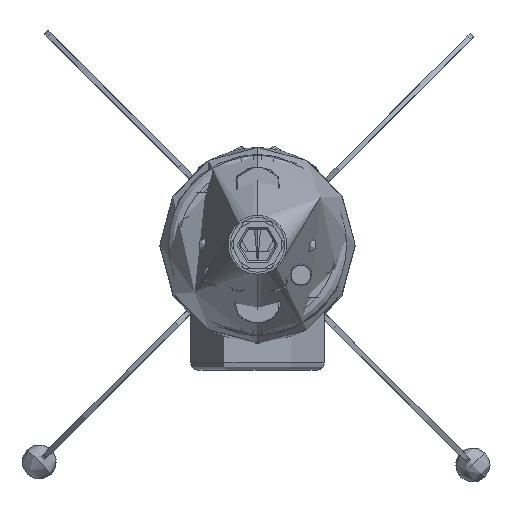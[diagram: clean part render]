
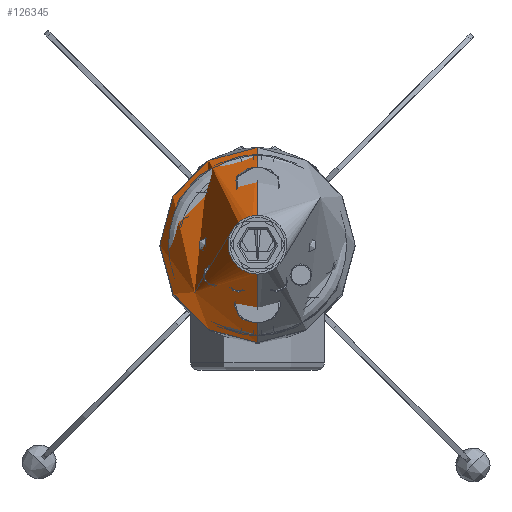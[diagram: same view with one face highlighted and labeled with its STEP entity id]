
A CAD part, top view. The second image highlights one B-rep face of the part: STEP entity #126345.
In plain terms, the highlighted free-form (B-spline) face has degree [2, 3] with [3, 4] control points.
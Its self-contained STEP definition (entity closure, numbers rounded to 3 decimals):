
#1784 = EDGE_CURVE ( 'NONE', #110170, #47028, #147333, .T. ) ;
#1825 = CARTESIAN_POINT ( 'NONE',  ( 0., 83.185, 130. ) ) ;
#4234 = CARTESIAN_POINT ( 'NONE',  ( 0., -25., 270. ) ) ;
#8751 = CARTESIAN_POINT ( 'NONE',  ( 0., -83.185, 130. ) ) ;
#12847 = CARTESIAN_POINT ( 'NONE',  ( 0., 0., 130. ) ) ;
#18354 = ORIENTED_EDGE ( 'NONE', *, *, #65877, .F. ) ;
#20958 = CARTESIAN_POINT ( 'NONE',  ( 0., -83.185, 221.177 ) ) ;
#23169 = ORIENTED_EDGE ( 'NONE', *, *, #98029, .T. ) ;
#25024 = DIRECTION ( 'NONE',  ( -1., 0., 0. ) ) ;
#33104 = CARTESIAN_POINT ( 'NONE',  ( -166.37, 83.185, 221.177 ) ) ;
#33429 = DIRECTION ( 'NONE',  ( 0., 0., -1. ) ) ;
#33565 = DIRECTION ( 'NONE',  ( 0., 0., -1. ) ) ;
#35831 = EDGE_LOOP ( 'NONE', ( #18354, #77031, #23169, #128451, #137060 ) ) ;
#39778 = EDGE_CURVE ( 'NONE', #111716, #86021, #94275, .T. ) ;
#44076 = CIRCLE ( 'NONE', #65768, 25. ) ;
#45367 = CARTESIAN_POINT ( 'NONE',  ( 0., -25., 270. ) ) ;
#47028 = VERTEX_POINT ( 'NONE', #74645 ) ;
#57514 = CARTESIAN_POINT ( 'NONE',  ( -50., 25., 270. ) ) ;
#57627 = AXIS2_PLACEMENT_3D ( 'NONE', #106309, #33429, #118537 ) ;
#62912 =( BOUNDED_CURVE ( )  B_SPLINE_CURVE ( 2, ( #1825, #134707, #99037 ),
 .UNSPECIFIED., .F., .F. ) 
 B_SPLINE_CURVE_WITH_KNOTS ( ( 3, 3 ),
 ( 0., 1. ),
 .UNSPECIFIED. ) 
 CURVE ( )  GEOMETRIC_REPRESENTATION_ITEM ( )  RATIONAL_B_SPLINE_CURVE ( ( 1., 0.798, 1. ) ) 
 REPRESENTATION_ITEM ( '' )  );
#65768 = AXIS2_PLACEMENT_3D ( 'NONE', #106447, #33565, #118672 ) ;
#65877 = EDGE_CURVE ( 'NONE', #111716, #110170, #126606, .T. ) ;
#67804 =( BOUNDED_SURFACE ( )  B_SPLINE_SURFACE ( 2, 3, ( 
 ( #8751, #154372, #105467, #93748 ),
 ( #20958, #105997, #33104, #118236 ),
 ( #45367, #130445, #57514, #142678 ) ),
 .UNSPECIFIED., .F., .F., .F. ) 
 B_SPLINE_SURFACE_WITH_KNOTS ( ( 3, 3 ),
 ( 4, 4 ),
 ( 0., 1. ),
 ( 0., 1. ),
 .UNSPECIFIED. ) 
 GEOMETRIC_REPRESENTATION_ITEM ( )  RATIONAL_B_SPLINE_SURFACE ( (
 ( 1., 0.333, 0.333, 1.),
 ( 0.798, 0.266, 0.266, 0.798),
 ( 1., 0.333, 0.333, 1.) ) ) 
 REPRESENTATION_ITEM ( '' )  SURFACE ( )  );
#72044 = CARTESIAN_POINT ( 'NONE',  ( 0., -83.185, 130. ) ) ;
#74645 = CARTESIAN_POINT ( 'NONE',  ( 0., 83.185, 130. ) ) ;
#75043 = FACE_OUTER_BOUND ( 'NONE', #35831, .T. ) ;
#76929 = CARTESIAN_POINT ( 'NONE',  ( 0., -83.185, 221.177 ) ) ;
#77031 = ORIENTED_EDGE ( 'NONE', *, *, #39778, .T. ) ;
#79351 = CARTESIAN_POINT ( 'NONE',  ( -83.185, 0., 130. ) ) ;
#83675 = AXIS2_PLACEMENT_3D ( 'NONE', #12847, #97850, #25024 ) ;
#86021 = VERTEX_POINT ( 'NONE', #143632 ) ;
#93748 = CARTESIAN_POINT ( 'NONE',  ( 0., 83.185, 130. ) ) ;
#94275 =( BOUNDED_CURVE ( )  B_SPLINE_CURVE ( 2, ( #113152, #76929, #4234 ),
 .UNSPECIFIED., .F., .F. ) 
 B_SPLINE_CURVE_WITH_KNOTS ( ( 3, 3 ),
 ( 0., 1. ),
 .UNSPECIFIED. ) 
 CURVE ( )  GEOMETRIC_REPRESENTATION_ITEM ( )  RATIONAL_B_SPLINE_CURVE ( ( 1., 0.798, 1. ) ) 
 REPRESENTATION_ITEM ( '' )  );
#97850 = DIRECTION ( 'NONE',  ( 0., 0., -1. ) ) ;
#98029 = EDGE_CURVE ( 'NONE', #86021, #155258, #44076, .T. ) ;
#99037 = CARTESIAN_POINT ( 'NONE',  ( 0., 25., 270. ) ) ;
#105467 = CARTESIAN_POINT ( 'NONE',  ( -166.37, 83.185, 130. ) ) ;
#105997 = CARTESIAN_POINT ( 'NONE',  ( -166.37, -83.185, 221.177 ) ) ;
#106309 = CARTESIAN_POINT ( 'NONE',  ( 0., 0., 130. ) ) ;
#106447 = CARTESIAN_POINT ( 'NONE',  ( 0., 0., 270. ) ) ;
#110170 = VERTEX_POINT ( 'NONE', #79351 ) ;
#111716 = VERTEX_POINT ( 'NONE', #72044 ) ;
#113152 = CARTESIAN_POINT ( 'NONE',  ( 0., -83.185, 130. ) ) ;
#118236 = CARTESIAN_POINT ( 'NONE',  ( 0., 83.185, 221.177 ) ) ;
#118537 = DIRECTION ( 'NONE',  ( -1., 0., 0. ) ) ;
#118672 = DIRECTION ( 'NONE',  ( -1., 0., 0. ) ) ;
#125370 = EDGE_CURVE ( 'NONE', #47028, #155258, #62912, .T. ) ;
#126345 = ADVANCED_FACE ( 'NONE', ( #75043 ), #67804, .T. ) ;
#126606 = CIRCLE ( 'NONE', #83675, 83.185 ) ;
#128451 = ORIENTED_EDGE ( 'NONE', *, *, #125370, .F. ) ;
#130445 = CARTESIAN_POINT ( 'NONE',  ( -50., -25., 270. ) ) ;
#131902 = CARTESIAN_POINT ( 'NONE',  ( 0., 25., 270. ) ) ;
#134707 = CARTESIAN_POINT ( 'NONE',  ( 0., 83.185, 221.177 ) ) ;
#137060 = ORIENTED_EDGE ( 'NONE', *, *, #1784, .F. ) ;
#142678 = CARTESIAN_POINT ( 'NONE',  ( 0., 25., 270. ) ) ;
#143632 = CARTESIAN_POINT ( 'NONE',  ( 0., -25., 270. ) ) ;
#147333 = CIRCLE ( 'NONE', #57627, 83.185 ) ;
#154372 = CARTESIAN_POINT ( 'NONE',  ( -166.37, -83.185, 130. ) ) ;
#155258 = VERTEX_POINT ( 'NONE', #131902 ) ;
